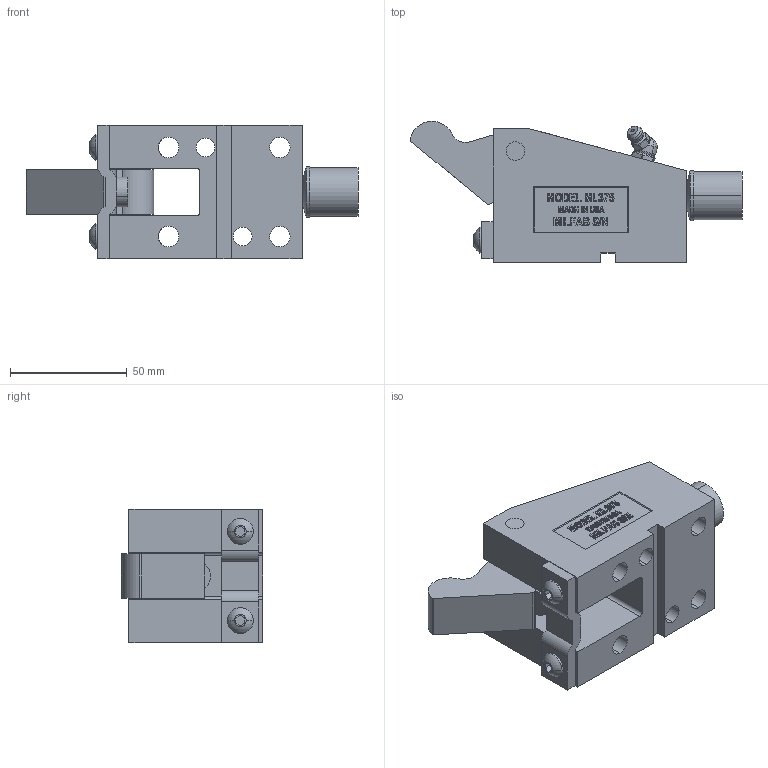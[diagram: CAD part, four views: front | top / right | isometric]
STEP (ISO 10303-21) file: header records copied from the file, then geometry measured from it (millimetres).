
FILE_DESCRIPTION (( 'STEP AP214' ), '1' );
FILE_NAME ('ML37545-O.STEP', '2014-01-07T20:13:42', ( 'user' ), ( '' ), 'SwSTEP 2.0', 'SolidWorks 2009', '' );
FILE_SCHEMA (( 'AUTOMOTIVE_DESIGN' ));
Length unit declared in the file: inch
Products named in the file (1): ML37545-O
Bounding box: 141.97 x 60.4 x 57.15 mm (x, y, z)
Surface area: 47570 mm2 (no closed solid volume)
Topology: 0 solids, 11 shells, 497 faces, 1454 edges, 971 vertices
Faces by surface type: plane 303, bspline 83, cylinder 75, cone 16, torus 16, sphere 4
Entity records: 27605 total; most frequent: CARTESIAN_POINT 8649, ORIENTED_EDGE 2668, DIRECTION 2214, EDGE_CURVE 1452, LINE 976, VECTOR 976, VERTEX_POINT 971, AXIS2_PLACEMENT_3D 619
